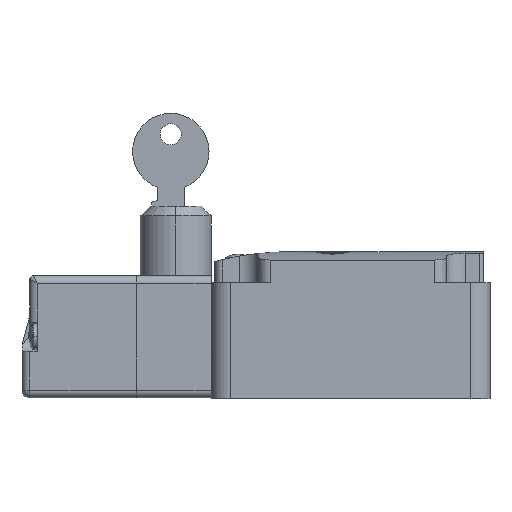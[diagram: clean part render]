
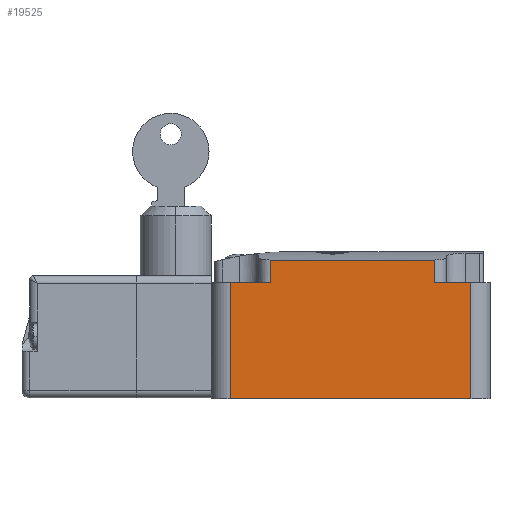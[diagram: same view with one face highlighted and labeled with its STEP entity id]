
A CAD part, left-side view. The second image highlights one B-rep face of the part: STEP entity #19525.
In plain terms, the highlighted planar face has unit normal (-1, 0, 0).
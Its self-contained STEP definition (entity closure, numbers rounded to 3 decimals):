
#363 = CARTESIAN_POINT ( 'NONE',  ( -20., -61., -16.2 ) ) ;
#479 = VECTOR ( 'NONE', #7372, 1000. ) ;
#570 = VERTEX_POINT ( 'NONE', #7028 ) ;
#1011 = LINE ( 'NONE', #13684, #8594 ) ;
#1351 = EDGE_LOOP ( 'NONE', ( #13907, #4283, #8101, #16776, #8853, #10643, #7750, #2531 ) ) ;
#1561 = CARTESIAN_POINT ( 'NONE',  ( -20., -61., -16.2 ) ) ;
#1628 = VERTEX_POINT ( 'NONE', #18252 ) ;
#2531 = ORIENTED_EDGE ( 'NONE', *, *, #16297, .T. ) ;
#3600 = LINE ( 'NONE', #4675, #15677 ) ;
#3682 = EDGE_CURVE ( 'NONE', #4262, #4405, #13227, .T. ) ;
#4262 = VERTEX_POINT ( 'NONE', #7544 ) ;
#4275 = DIRECTION ( 'NONE',  ( 0., 0., -1. ) ) ;
#4283 = ORIENTED_EDGE ( 'NONE', *, *, #15318, .T. ) ;
#4405 = VERTEX_POINT ( 'NONE', #18535 ) ;
#4595 = CARTESIAN_POINT ( 'NONE',  ( -20., 2., 14.2 ) ) ;
#4673 = VECTOR ( 'NONE', #10126, 1000. ) ;
#4675 = CARTESIAN_POINT ( 'NONE',  ( -20., 2., -16.2 ) ) ;
#5545 = VECTOR ( 'NONE', #8902, 1000. ) ;
#5864 = CARTESIAN_POINT ( 'NONE',  ( -20., 7., 14.2 ) ) ;
#7028 = CARTESIAN_POINT ( 'NONE',  ( -20., -51.5, 20.1 ) ) ;
#7079 = VERTEX_POINT ( 'NONE', #363 ) ;
#7165 = CARTESIAN_POINT ( 'NONE',  ( -20., 7., 14.2 ) ) ;
#7372 = DIRECTION ( 'NONE',  ( 0., -1., 0. ) ) ;
#7376 = LINE ( 'NONE', #19416, #12375 ) ;
#7544 = CARTESIAN_POINT ( 'NONE',  ( -20., -51.5, 14.2 ) ) ;
#7750 = ORIENTED_EDGE ( 'NONE', *, *, #10341, .F. ) ;
#8101 = ORIENTED_EDGE ( 'NONE', *, *, #3682, .F. ) ;
#8594 = VECTOR ( 'NONE', #9104, 1000. ) ;
#8853 = ORIENTED_EDGE ( 'NONE', *, *, #11782, .T. ) ;
#8902 = DIRECTION ( 'NONE',  ( 0., 0., 1. ) ) ;
#9065 = DIRECTION ( 'NONE',  ( 0., -1., 0. ) ) ;
#9104 = DIRECTION ( 'NONE',  ( 0., 1., 0. ) ) ;
#10126 = DIRECTION ( 'NONE',  ( 0., -1., 0. ) ) ;
#10341 = EDGE_CURVE ( 'NONE', #13017, #19442, #16594, .T. ) ;
#10643 = ORIENTED_EDGE ( 'NONE', *, *, #16612, .T. ) ;
#11593 = LINE ( 'NONE', #14226, #19145 ) ;
#11702 = EDGE_CURVE ( 'NONE', #4262, #570, #17606, .T. ) ;
#11782 = EDGE_CURVE ( 'NONE', #570, #1628, #1011, .T. ) ;
#12012 = PLANE ( 'NONE',  #18104 ) ;
#12375 = VECTOR ( 'NONE', #4275, 1000. ) ;
#13017 = VERTEX_POINT ( 'NONE', #4595 ) ;
#13227 = LINE ( 'NONE', #7165, #4673 ) ;
#13589 = CARTESIAN_POINT ( 'NONE',  ( -20., 7., -16.2 ) ) ;
#13671 = DIRECTION ( 'NONE',  ( 0., 0., 1. ) ) ;
#13684 = CARTESIAN_POINT ( 'NONE',  ( -20., -66., 20.1 ) ) ;
#13907 = ORIENTED_EDGE ( 'NONE', *, *, #15131, .T. ) ;
#13940 = DIRECTION ( 'NONE',  ( 0., -1., 0. ) ) ;
#14226 = CARTESIAN_POINT ( 'NONE',  ( -20., 7., -16.2 ) ) ;
#14954 = CARTESIAN_POINT ( 'NONE',  ( -20., -51.5, 22.7 ) ) ;
#15131 = EDGE_CURVE ( 'NONE', #16331, #7079, #11593, .T. ) ;
#15134 = FACE_OUTER_BOUND ( 'NONE', #1351, .T. ) ;
#15267 = DIRECTION ( 'NONE',  ( 0., 0., -1. ) ) ;
#15318 = EDGE_CURVE ( 'NONE', #7079, #4405, #17246, .T. ) ;
#15677 = VECTOR ( 'NONE', #15267, 1000. ) ;
#16289 = CARTESIAN_POINT ( 'NONE',  ( -20., -8.5, 14.2 ) ) ;
#16297 = EDGE_CURVE ( 'NONE', #13017, #16331, #3600, .T. ) ;
#16331 = VERTEX_POINT ( 'NONE', #16638 ) ;
#16594 = LINE ( 'NONE', #5864, #479 ) ;
#16612 = EDGE_CURVE ( 'NONE', #1628, #19442, #7376, .T. ) ;
#16638 = CARTESIAN_POINT ( 'NONE',  ( -20., 2., -16.2 ) ) ;
#16748 = VECTOR ( 'NONE', #13671, 1000. ) ;
#16776 = ORIENTED_EDGE ( 'NONE', *, *, #11702, .T. ) ;
#17246 = LINE ( 'NONE', #1561, #16748 ) ;
#17606 = LINE ( 'NONE', #14954, #5545 ) ;
#18104 = AXIS2_PLACEMENT_3D ( 'NONE', #13589, #18127, #9065 ) ;
#18127 = DIRECTION ( 'NONE',  ( -1., 0., 0. ) ) ;
#18252 = CARTESIAN_POINT ( 'NONE',  ( -20., -8.5, 20.1 ) ) ;
#18535 = CARTESIAN_POINT ( 'NONE',  ( -20., -61., 14.2 ) ) ;
#19145 = VECTOR ( 'NONE', #13940, 1000. ) ;
#19416 = CARTESIAN_POINT ( 'NONE',  ( -20., -8.5, 14.2 ) ) ;
#19442 = VERTEX_POINT ( 'NONE', #16289 ) ;
#19525 = ADVANCED_FACE ( 'NONE', ( #15134 ), #12012, .T. ) ;
